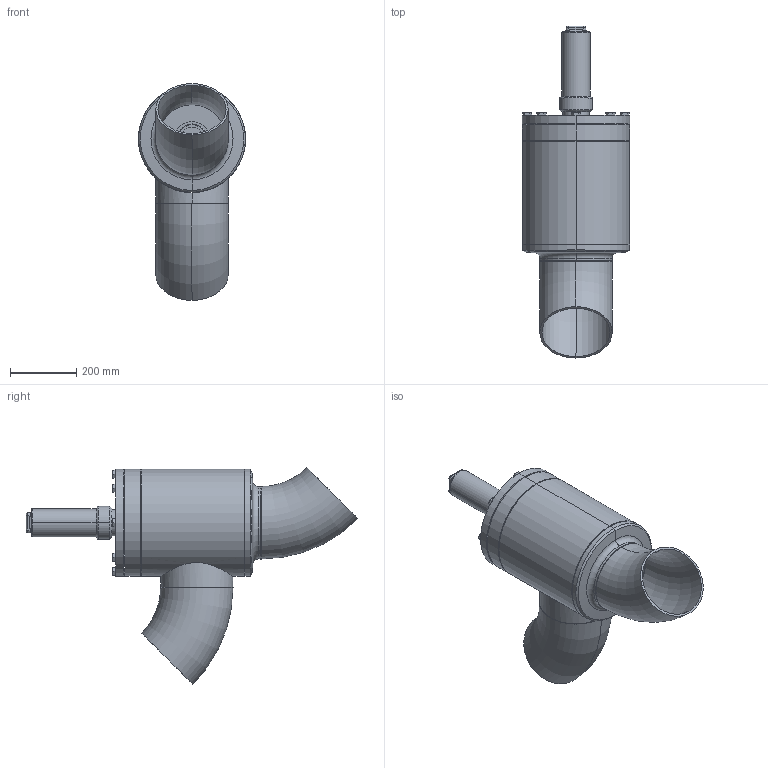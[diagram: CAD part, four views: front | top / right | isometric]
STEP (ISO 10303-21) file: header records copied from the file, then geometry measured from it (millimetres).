
FILE_DESCRIPTION (( 'STEP AP214' ), '1' );
FILE_NAME ('AVR26300C23-DN200_R1_PS25.STEP', '2006-04-27T13:19:32', ( 'Herr Grams' ), ( 'AWP GmbH' ), 'SwSTEP 2.0', 'SolidWorks 2002296', '' );
FILE_SCHEMA (( 'AUTOMOTIVE_DESIGN' ));
Length unit declared in the file: millimetre
Products named in the file (19): AVR26300C23-DN200_R1_PS25; Kappe16402_DN200-350_Standard; AVR26300B23_Deck+Schr-DN200_Standard; Deckel-kpl26300B23-DN200_Standard; Scheibe f Deckel16300-DN200_Standard; Buchse f Deckel16300-DN200_Standard; bead-deck264-200_Standard; bead-deck263-200_Standard; Sechskantschraube-DIN933_M16x 45; Gehäuse-kpl16300-DN200_R1_Standard; bead-DN200-3_Standard; bead-DN200-2_Standard; bead-DN200-4_Standard; bead-DN200-1_Standard; Rohrstutzen-A16300-DN200_R1_Standard; Rohrbogen 45°_Rohrbogen-DN200-45°; Boden16300-DN200_Standard; Kopfstück16300-DN200_Standard; Gehäuse16300-DN200_Standard
Assembly tree (26 placements, depth 4):
  AVR26300C23-DN200_R1_PS25
    Gehäuse-kpl16300-DN200_R1_Standard
      Kopfstück16300-DN200_Standard
      Rohrbogen 45°_Rohrbogen-DN200-45°  x2
      Rohrstutzen-A16300-DN200_R1_Standard
      Boden16300-DN200_Standard
      Gehäuse16300-DN200_Standard
      bead-DN200-4_Standard
      bead-DN200-2_Standard
      bead-DN200-1_Standard
      bead-DN200-3_Standard
    Kappe16402_DN200-350_Standard
    AVR26300B23_Deck+Schr-DN200_Standard
      Sechskantschraube-DIN933_M16x 45  x8
      Deckel-kpl26300B23-DN200_Standard
        Scheibe f Deckel16300-DN200_Standard
        bead-deck263-200_Standard
        Buchse f Deckel16300-DN200_Standard
        bead-deck264-200_Standard
Bounding box: 325 x 1005.13 x 655.93 mm (x, y, z)
Volume: 13526001.7 mm3; surface area: 2300751.7 mm2
Topology: 23 solids, 23 shells, 408 faces, 864 edges, 522 vertices
Faces by surface type: cone 130, plane 123, cylinder 105, bspline 30, torus 20
Entity records: 19312 total; most frequent: CARTESIAN_POINT 13399, DIRECTION 1076, ORIENTED_EDGE 976, EDGE_CURVE 488, AXIS2_PLACEMENT_3D 473, VERTEX_POINT 304, EDGE_LOOP 282, CIRCLE 244
